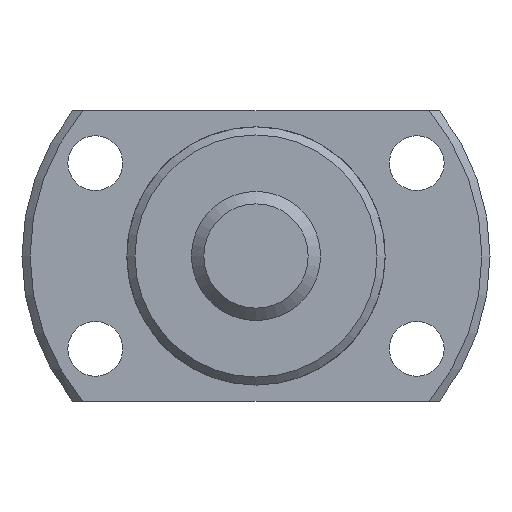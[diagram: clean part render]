
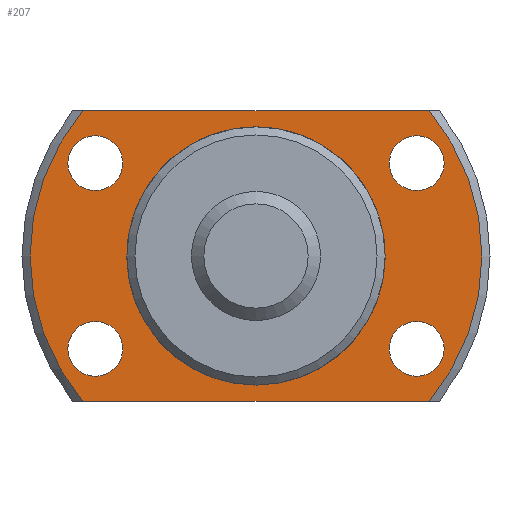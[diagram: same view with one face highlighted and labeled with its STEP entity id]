
A CAD part, left-side view. The second image highlights one B-rep face of the part: STEP entity #207.
In plain terms, the highlighted planar face has unit normal (-1, 0, 0).
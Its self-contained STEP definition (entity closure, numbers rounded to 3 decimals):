
#207 = ADVANCED_FACE( '', ( #317, #318, #319, #320, #321, #322 ), #323, .F. );
#317 = FACE_OUTER_BOUND( '', #450, .T. );
#318 = FACE_BOUND( '', #451, .T. );
#319 = FACE_BOUND( '', #452, .T. );
#320 = FACE_BOUND( '', #453, .T. );
#321 = FACE_BOUND( '', #454, .T. );
#322 = FACE_BOUND( '', #455, .T. );
#323 = PLANE( '', #456 );
#450 = EDGE_LOOP( '', ( #753, #754, #755, #756 ) );
#451 = EDGE_LOOP( '', ( #757 ) );
#452 = EDGE_LOOP( '', ( #758 ) );
#453 = EDGE_LOOP( '', ( #759 ) );
#454 = EDGE_LOOP( '', ( #760 ) );
#455 = EDGE_LOOP( '', ( #761 ) );
#456 = AXIS2_PLACEMENT_3D( '', #762, #763, #764 );
#753 = ORIENTED_EDGE( '', *, *, #908, .F. );
#754 = ORIENTED_EDGE( '', *, *, #936, .F. );
#755 = ORIENTED_EDGE( '', *, *, #943, .F. );
#756 = ORIENTED_EDGE( '', *, *, #906, .F. );
#757 = ORIENTED_EDGE( '', *, *, #922, .T. );
#758 = ORIENTED_EDGE( '', *, *, #924, .T. );
#759 = ORIENTED_EDGE( '', *, *, #926, .T. );
#760 = ORIENTED_EDGE( '', *, *, #928, .T. );
#761 = ORIENTED_EDGE( '', *, *, #944, .T. );
#762 = CARTESIAN_POINT( '', ( 13., 7.75, 0. ) );
#763 = DIRECTION( '', ( 1., 0., 0. ) );
#764 = DIRECTION( '', ( 0., 0., -1. ) );
#906 = EDGE_CURVE( '', #1051, #1053, #1054, .T. );
#908 = EDGE_CURVE( '', #1056, #1051, #1057, .T. );
#922 = EDGE_CURVE( '', #1079, #1079, #1080, .T. );
#924 = EDGE_CURVE( '', #1083, #1083, #1084, .T. );
#926 = EDGE_CURVE( '', #1087, #1087, #1088, .T. );
#928 = EDGE_CURVE( '', #1091, #1091, #1092, .T. );
#936 = EDGE_CURVE( '', #1105, #1056, #1107, .T. );
#943 = EDGE_CURVE( '', #1053, #1105, #1115, .T. );
#944 = EDGE_CURVE( '', #1116, #1116, #1117, .T. );
#1051 = VERTEX_POINT( '', #1333 );
#1053 = VERTEX_POINT( '', #1338 );
#1054 = LINE( '', #1339, #1340 );
#1056 = VERTEX_POINT( '', #1345 );
#1057 = CIRCLE( '', #1346, 14. );
#1079 = VERTEX_POINT( '', #1380 );
#1080 = CIRCLE( '', #1381, 1.7 );
#1083 = VERTEX_POINT( '', #1384 );
#1084 = CIRCLE( '', #1385, 1.7 );
#1087 = VERTEX_POINT( '', #1388 );
#1088 = CIRCLE( '', #1389, 1.7 );
#1091 = VERTEX_POINT( '', #1392 );
#1092 = CIRCLE( '', #1393, 1.7 );
#1105 = VERTEX_POINT( '', #1415 );
#1107 = LINE( '', #1420, #1421 );
#1115 = CIRCLE( '', #1429, 14. );
#1116 = VERTEX_POINT( '', #1430 );
#1117 = CIRCLE( '', #1431, 7.75 );
#1333 = CARTESIAN_POINT( '', ( 13., 10.724, 9. ) );
#1338 = CARTESIAN_POINT( '', ( 13., -10.724, 9. ) );
#1339 = CARTESIAN_POINT( '', ( 13., 19.5, 9. ) );
#1340 = VECTOR( '', #1538, 1000. );
#1345 = CARTESIAN_POINT( '', ( 13., 10.724, -9. ) );
#1346 = AXIS2_PLACEMENT_3D( '', #1539, #1540, #1541 );
#1380 = CARTESIAN_POINT( '', ( 13., -9.959, -7.45 ) );
#1381 = AXIS2_PLACEMENT_3D( '', #1560, #1561, #1562 );
#1384 = CARTESIAN_POINT( '', ( 13., -9.959, 4.05 ) );
#1385 = AXIS2_PLACEMENT_3D( '', #1566, #1567, #1568 );
#1388 = CARTESIAN_POINT( '', ( 13., 9.959, -7.45 ) );
#1389 = AXIS2_PLACEMENT_3D( '', #1572, #1573, #1574 );
#1392 = CARTESIAN_POINT( '', ( 13., 9.959, 4.05 ) );
#1393 = AXIS2_PLACEMENT_3D( '', #1578, #1579, #1580 );
#1415 = CARTESIAN_POINT( '', ( 13., -10.724, -9. ) );
#1420 = CARTESIAN_POINT( '', ( 13., -19.5, -9. ) );
#1421 = VECTOR( '', #1587, 1000. );
#1429 = AXIS2_PLACEMENT_3D( '', #1606, #1607, #1608 );
#1430 = CARTESIAN_POINT( '', ( 13., 0., -7.75 ) );
#1431 = AXIS2_PLACEMENT_3D( '', #1609, #1610, #1611 );
#1538 = DIRECTION( '', ( 0., -1., 0. ) );
#1539 = CARTESIAN_POINT( '', ( 13., 0., 0. ) );
#1540 = DIRECTION( '', ( 1., 0., 0. ) );
#1541 = DIRECTION( '', ( 0., 0., -1. ) );
#1560 = CARTESIAN_POINT( '', ( 13., -9.959, -5.75 ) );
#1561 = DIRECTION( '', ( 1., 0., 0. ) );
#1562 = DIRECTION( '', ( 0., 0., -1. ) );
#1566 = CARTESIAN_POINT( '', ( 13., -9.959, 5.75 ) );
#1567 = DIRECTION( '', ( 1., 0., 0. ) );
#1568 = DIRECTION( '', ( 0., 0., -1. ) );
#1572 = CARTESIAN_POINT( '', ( 13., 9.959, -5.75 ) );
#1573 = DIRECTION( '', ( 1., 0., 0. ) );
#1574 = DIRECTION( '', ( 0., 0., -1. ) );
#1578 = CARTESIAN_POINT( '', ( 13., 9.959, 5.75 ) );
#1579 = DIRECTION( '', ( 1., 0., 0. ) );
#1580 = DIRECTION( '', ( 0., 0., -1. ) );
#1587 = DIRECTION( '', ( 0., 1., 0. ) );
#1606 = CARTESIAN_POINT( '', ( 13., 0., 0. ) );
#1607 = DIRECTION( '', ( 1., 0., 0. ) );
#1608 = DIRECTION( '', ( 0., 0., -1. ) );
#1609 = CARTESIAN_POINT( '', ( 13., 0., 0. ) );
#1610 = DIRECTION( '', ( 1., 0., 0. ) );
#1611 = DIRECTION( '', ( 0., 0., -1. ) );
